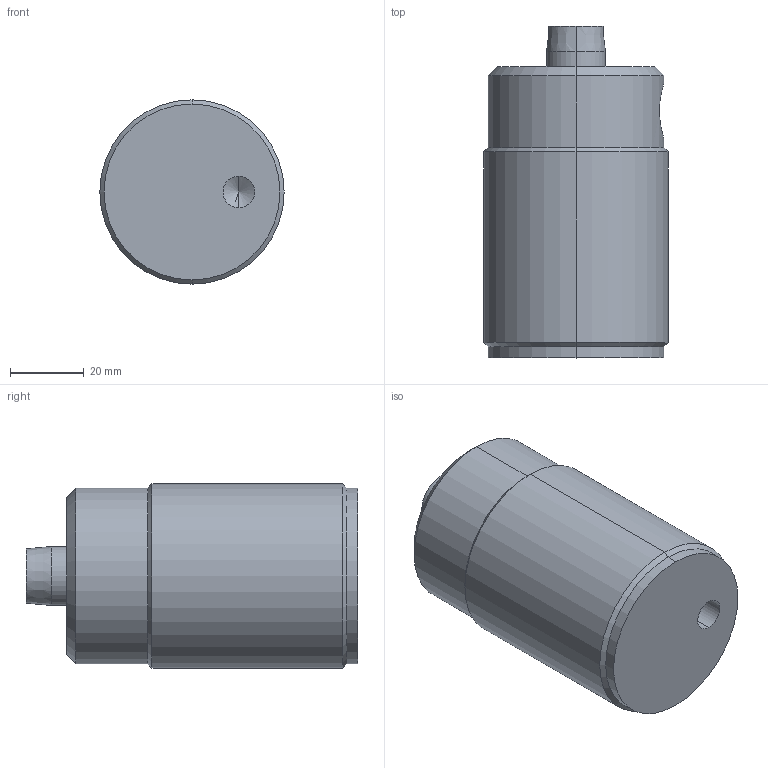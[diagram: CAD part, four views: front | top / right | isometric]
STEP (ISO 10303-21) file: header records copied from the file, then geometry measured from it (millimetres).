
FILE_DESCRIPTION (( 'STEP AP214' ), '1' );
FILE_NAME ('876-32-16-R-N.step', '2019-01-30T10:40:38', ( 'user' ), ( '' ), 'SwSTEP 2.0', 'SolidWorks 2017', '' );
FILE_SCHEMA (( 'AUTOMOTIVE_DESIGN' ));
Length unit declared in the file: millimetre
Products named in the file (3): Kopie von Kolben^876_32-L-N; Kopie von Zylinder^876_32-R; 876-32-16-R-N
Assembly tree (2 placements, depth 2):
  876-32-16-R-N
    Kopie von Zylinder^876_32-R
    Kopie von Kolben^876_32-L-N
Bounding box: 50 x 90 x 50 mm (x, y, z)
Volume: 132113.7 mm3; surface area: 28216.6 mm2
Topology: 2 solids, 2 shells, 48 faces, 104 edges, 62 vertices
Faces by surface type: cylinder 23, plane 13, cone 12
Entity records: 1614 total; most frequent: CARTESIAN_POINT 375, DIRECTION 252, ORIENTED_EDGE 200, AXIS2_PLACEMENT_3D 103, EDGE_CURVE 100, VERTEX_POINT 62, EDGE_LOOP 56, CIRCLE 50
